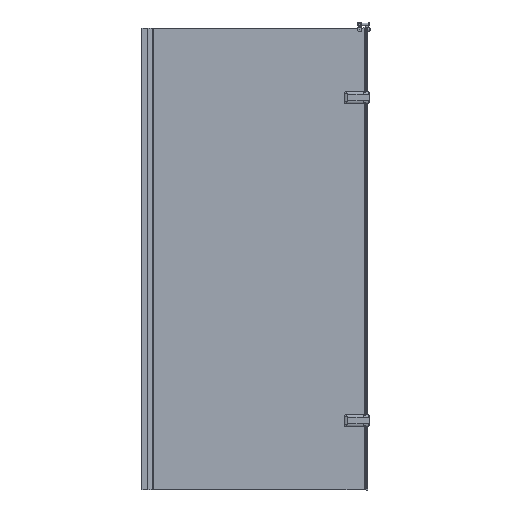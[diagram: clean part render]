
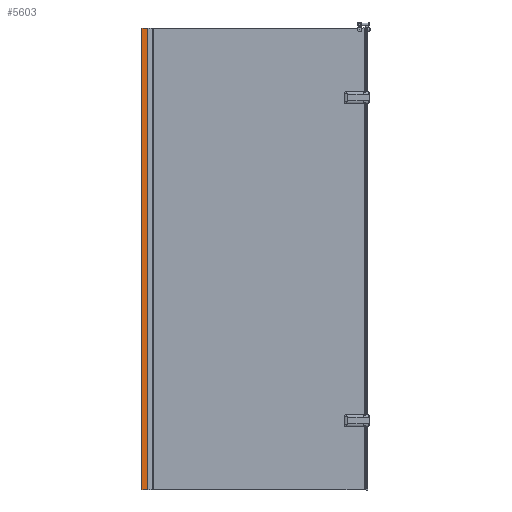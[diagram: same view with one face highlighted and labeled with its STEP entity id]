
A CAD part, front view. The second image highlights one B-rep face of the part: STEP entity #5603.
In plain terms, the highlighted planar face has unit normal (0, -1, 0).
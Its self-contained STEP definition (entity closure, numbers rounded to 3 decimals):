
#586=LINE($,#12225,#1023);
#626=LINE($,#12340,#1063);
#642=LINE($,#12369,#1079);
#643=LINE($,#12371,#1080);
#1023=VECTOR($,#7273,22.26);
#1063=VECTOR($,#7383,22.26);
#1079=VECTOR($,#7407,2000.);
#1080=VECTOR($,#7410,2000.);
#1210=PLANE($,#6077);
#1527=FACE_OUTER_BOUND($,#1877,.T.);
#1877=EDGE_LOOP($,(#4729,#4730,#4731,#4732));
#2593=VERTEX_POINT($,#12222);
#2594=VERTEX_POINT($,#12224);
#2633=VERTEX_POINT($,#12337);
#2634=VERTEX_POINT($,#12339);
#3305=EDGE_CURVE($,#2594,#2593,#586,.T.);
#3363=EDGE_CURVE($,#2633,#2634,#626,.T.);
#3380=EDGE_CURVE($,#2593,#2634,#642,.T.);
#3381=EDGE_CURVE($,#2594,#2633,#643,.T.);
#4729=ORIENTED_EDGE($,*,*,#3305,.T.);
#4730=ORIENTED_EDGE($,*,*,#3380,.T.);
#4731=ORIENTED_EDGE($,*,*,#3363,.F.);
#4732=ORIENTED_EDGE($,*,*,#3381,.F.);
#5603=ADVANCED_FACE($,(#1527),#1210,.T.);
#6077=AXIS2_PLACEMENT_3D($,#12370,#7408,#7409);
#7273=DIRECTION($,(-1.,0.,0.));
#7383=DIRECTION($,(-1.,0.,0.));
#7407=DIRECTION($,(0.,0.,-1.));
#7408=DIRECTION('center_axis',(0.,-1.,0.));
#7409=DIRECTION('ref_axis',(-1.,0.,0.));
#7410=DIRECTION($,(0.,0.,-1.));
#12222=CARTESIAN_POINT('',(366.819,-147.844,1485.944));
#12224=CARTESIAN_POINT('',(389.078,-147.844,1485.944));
#12225=CARTESIAN_POINT($,(389.078,-147.844,1485.944));
#12337=CARTESIAN_POINT('',(389.078,-147.844,-514.056));
#12339=CARTESIAN_POINT('',(366.819,-147.844,-514.056));
#12340=CARTESIAN_POINT($,(389.078,-147.844,-514.056));
#12369=CARTESIAN_POINT($,(366.819,-147.844,1485.944));
#12370=CARTESIAN_POINT('Origin',(389.078,-147.844,1485.944));
#12371=CARTESIAN_POINT($,(389.078,-147.844,1485.944));
